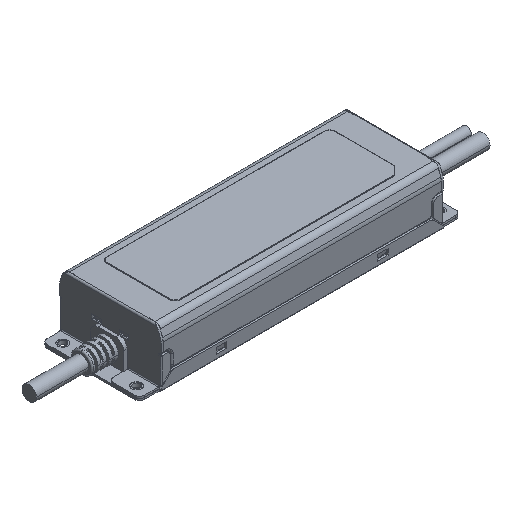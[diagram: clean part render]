
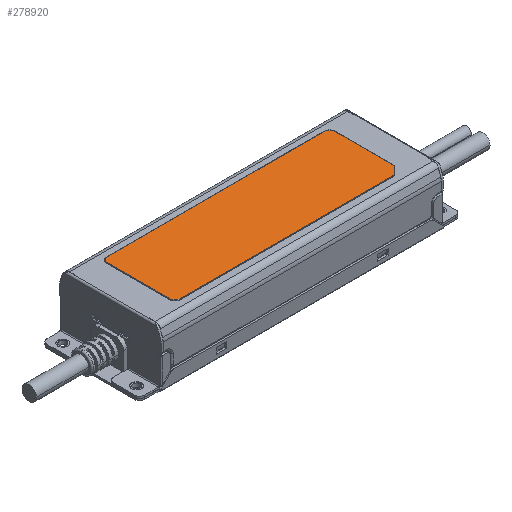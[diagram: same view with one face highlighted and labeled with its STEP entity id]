
A CAD part, isometric view. The second image highlights one B-rep face of the part: STEP entity #278920.
In plain terms, the highlighted planar face has unit normal (0, 0, 1).
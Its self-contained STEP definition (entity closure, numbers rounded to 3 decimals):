
#278180=CARTESIAN_POINT('',(149.065,46.025,
34.301));
#278190=DIRECTION('',(0.,0.,1.));
#278200=DIRECTION('',(1.,0.,0.));
#278210=AXIS2_PLACEMENT_3D('',#278180,#278190,#278200);
#278220=PLANE('',#278210);
#278230=CARTESIAN_POINT('',(25.053,18.048,
34.301));
#278240=DIRECTION('',(0.,0.,-1.));
#278250=DIRECTION('',(-1.,0.,0.));
#278260=AXIS2_PLACEMENT_3D('',#278230,#278240,#278250);
#278270=CIRCLE('',#278260,3.3);
#278280=CARTESIAN_POINT('',(25.053,14.748,
34.301));
#278290=VERTEX_POINT('',#278280);
#278300=CARTESIAN_POINT('',(21.753,18.048,
34.301));
#278310=VERTEX_POINT('',#278300);
#278320=EDGE_CURVE('',#278290,#278310,#278270,.T.);
#278330=ORIENTED_EDGE('',*,*,#278320,.F.);
#278340=CARTESIAN_POINT('',(21.753,0.,34.301));
#278350=DIRECTION('',(0.,-1.,0.));
#278360=VECTOR('',#278350,1.);
#278370=LINE('',#278340,#278360);
#278380=CARTESIAN_POINT('',(21.753,56.548,34.301)
);
#278390=VERTEX_POINT('',#278380);
#278400=EDGE_CURVE('',#278390,#278310,#278370,.T.);
#278410=ORIENTED_EDGE('',*,*,#278400,.T.);
#278420=CARTESIAN_POINT('',(25.053,56.548,34.301)
);
#278430=DIRECTION('',(0.,0.,1.));
#278440=DIRECTION('',(1.,0.,0.));
#278450=AXIS2_PLACEMENT_3D('',#278420,#278430,#278440);
#278460=CIRCLE('',#278450,3.3);
#278470=CARTESIAN_POINT('',(25.053,59.848,34.301)
);
#278480=VERTEX_POINT('',#278470);
#278490=EDGE_CURVE('',#278480,#278390,#278460,.T.);
#278500=ORIENTED_EDGE('',*,*,#278490,.T.);
#278510=CARTESIAN_POINT('',(-0.001,59.848,
34.301));
#278520=DIRECTION('',(-1.,0.,0.));
#278530=VECTOR('',#278520,1.);
#278540=LINE('',#278510,#278530);
#278550=CARTESIAN_POINT('',(159.553,59.848,34.301));
#278560=VERTEX_POINT('',#278550);
#278570=EDGE_CURVE('',#278560,#278480,#278540,.T.);
#278580=ORIENTED_EDGE('',*,*,#278570,.T.);
#278590=CARTESIAN_POINT('',(159.553,56.548,34.301));
#278600=DIRECTION('',(0.,0.,-1.));
#278610=DIRECTION('',(-1.,0.,0.));
#278620=AXIS2_PLACEMENT_3D('',#278590,#278600,#278610);
#278630=CIRCLE('',#278620,3.3);
#278640=CARTESIAN_POINT('',(162.853,56.548,34.301));
#278650=VERTEX_POINT('',#278640);
#278660=EDGE_CURVE('',#278560,#278650,#278630,.T.);
#278670=ORIENTED_EDGE('',*,*,#278660,.F.);
#278680=CARTESIAN_POINT('',(162.853,0.,34.301));
#278690=DIRECTION('',(0.,1.,0.));
#278700=VECTOR('',#278690,1.);
#278710=LINE('',#278680,#278700);
#278720=CARTESIAN_POINT('',(162.853,19.631,34.301
));
#278730=VERTEX_POINT('',#278720);
#278740=EDGE_CURVE('',#278730,#278650,#278710,.T.);
#278750=ORIENTED_EDGE('',*,*,#278740,.T.);
#278760=CARTESIAN_POINT('',(143.223,0.,34.301));
#278770=DIRECTION('',(-0.707,-0.707,0.));
#278780=VECTOR('',#278770,1.);
#278790=LINE('',#278760,#278780);
#278800=CARTESIAN_POINT('',(157.97,14.748,
34.301));
#278810=VERTEX_POINT('',#278800);
#278820=EDGE_CURVE('',#278730,#278810,#278790,.T.);
#278830=ORIENTED_EDGE('',*,*,#278820,.F.);
#278840=CARTESIAN_POINT('',(-0.001,14.748,
34.301));
#278850=DIRECTION('',(1.,0.,0.));
#278860=VECTOR('',#278850,1.);
#278870=LINE('',#278840,#278860);
#278880=EDGE_CURVE('',#278290,#278810,#278870,.T.);
#278890=ORIENTED_EDGE('',*,*,#278880,.T.);
#278900=EDGE_LOOP('',(#278890,#278830,#278750,#278670,#278580,#278500,
#278410,#278330));
#278910=FACE_OUTER_BOUND('',#278900,.T.);
#278920=ADVANCED_FACE('',(#278910),#278220,.T.);
